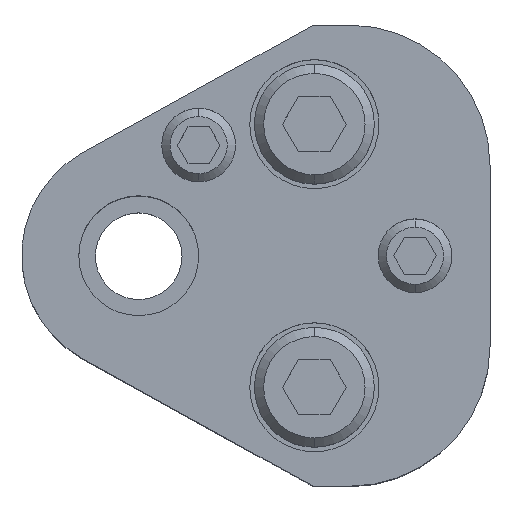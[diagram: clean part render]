
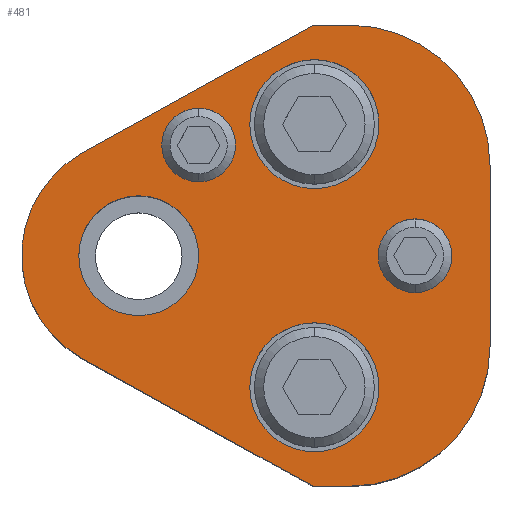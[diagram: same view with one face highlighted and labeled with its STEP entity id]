
A CAD part, top view. The second image highlights one B-rep face of the part: STEP entity #481.
In plain terms, the highlighted planar face has unit normal (0, 0, 1).
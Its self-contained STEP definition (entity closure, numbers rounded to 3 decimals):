
#213=FACE_BOUND('',#843,.T.);
#214=FACE_BOUND('',#844,.T.);
#215=FACE_BOUND('',#845,.T.);
#216=FACE_BOUND('',#846,.T.);
#217=FACE_BOUND('',#847,.T.);
#218=FACE_BOUND('',#848,.T.);
#303=CIRCLE('',#2712,15.2);
#305=CIRCLE('',#2716,15.2);
#308=CIRCLE('',#2722,12.7);
#309=CIRCLE('',#2724,4.);
#311=CIRCLE('',#2727,4.);
#313=CIRCLE('',#2730,4.);
#315=CIRCLE('',#2733,4.);
#325=CIRCLE('',#2748,7.);
#326=CIRCLE('',#2749,7.);
#327=CIRCLE('',#2750,7.);
#328=CIRCLE('',#2751,7.);
#329=CIRCLE('',#2752,6.5);
#330=CIRCLE('',#2753,6.5);
#481=ADVANCED_FACE('',(#213,#214,#215,#216,#217,#218),#595,.T.);
#595=PLANE('',#2754);
#843=EDGE_LOOP('',(#1257,#1258,#1259,#1260,#1261,#1262,#1263,#1264));
#844=EDGE_LOOP('',(#1265,#1266));
#845=EDGE_LOOP('',(#1267,#1268));
#846=EDGE_LOOP('',(#1269,#1270));
#847=EDGE_LOOP('',(#1271,#1272));
#848=EDGE_LOOP('',(#1273,#1274));
#1257=ORIENTED_EDGE('',*,*,#1996,.T.);
#1258=ORIENTED_EDGE('',*,*,#2000,.T.);
#1259=ORIENTED_EDGE('',*,*,#2003,.T.);
#1260=ORIENTED_EDGE('',*,*,#2006,.T.);
#1261=ORIENTED_EDGE('',*,*,#2009,.T.);
#1262=ORIENTED_EDGE('',*,*,#2012,.T.);
#1263=ORIENTED_EDGE('',*,*,#2015,.T.);
#1264=ORIENTED_EDGE('',*,*,#2018,.T.);
#1265=ORIENTED_EDGE('',*,*,#2043,.F.);
#1266=ORIENTED_EDGE('',*,*,#2044,.F.);
#1267=ORIENTED_EDGE('',*,*,#2045,.F.);
#1268=ORIENTED_EDGE('',*,*,#2046,.F.);
#1269=ORIENTED_EDGE('',*,*,#2029,.F.);
#1270=ORIENTED_EDGE('',*,*,#2025,.F.);
#1271=ORIENTED_EDGE('',*,*,#2023,.F.);
#1272=ORIENTED_EDGE('',*,*,#2019,.F.);
#1273=ORIENTED_EDGE('',*,*,#2047,.T.);
#1274=ORIENTED_EDGE('',*,*,#2048,.T.);
#1728=VERTEX_POINT('',#4024);
#1729=VERTEX_POINT('',#4026);
#1732=VERTEX_POINT('',#4033);
#1734=VERTEX_POINT('',#4039);
#1736=VERTEX_POINT('',#4045);
#1738=VERTEX_POINT('',#4051);
#1740=VERTEX_POINT('',#4057);
#1742=VERTEX_POINT('',#4063);
#1743=VERTEX_POINT('',#4071);
#1744=VERTEX_POINT('',#4072);
#1747=VERTEX_POINT('',#4083);
#1748=VERTEX_POINT('',#4084);
#1759=VERTEX_POINT('',#4119);
#1760=VERTEX_POINT('',#4120);
#1761=VERTEX_POINT('',#4123);
#1762=VERTEX_POINT('',#4124);
#1763=VERTEX_POINT('',#4127);
#1764=VERTEX_POINT('',#4128);
#1996=EDGE_CURVE('',#1729,#1728,#2294,.T.);
#2000=EDGE_CURVE('',#1728,#1732,#2298,.T.);
#2003=EDGE_CURVE('',#1732,#1734,#303,.T.);
#2006=EDGE_CURVE('',#1734,#1736,#2302,.T.);
#2009=EDGE_CURVE('',#1736,#1738,#305,.T.);
#2012=EDGE_CURVE('',#1738,#1740,#2306,.T.);
#2015=EDGE_CURVE('',#1740,#1742,#2309,.T.);
#2018=EDGE_CURVE('',#1742,#1729,#308,.T.);
#2019=EDGE_CURVE('',#1743,#1744,#309,.T.);
#2023=EDGE_CURVE('',#1744,#1743,#311,.T.);
#2025=EDGE_CURVE('',#1747,#1748,#313,.T.);
#2029=EDGE_CURVE('',#1748,#1747,#315,.T.);
#2043=EDGE_CURVE('',#1759,#1760,#325,.T.);
#2044=EDGE_CURVE('',#1760,#1759,#326,.T.);
#2045=EDGE_CURVE('',#1761,#1762,#327,.T.);
#2046=EDGE_CURVE('',#1762,#1761,#328,.T.);
#2047=EDGE_CURVE('',#1763,#1764,#329,.T.);
#2048=EDGE_CURVE('',#1764,#1763,#330,.T.);
#2294=LINE('',#4025,#2486);
#2298=LINE('',#4034,#2490);
#2302=LINE('',#4046,#2494);
#2306=LINE('',#4058,#2498);
#2309=LINE('',#4064,#2501);
#2486=VECTOR('',#3186,1.);
#2490=VECTOR('',#3192,1.);
#2494=VECTOR('',#3204,1.);
#2498=VECTOR('',#3216,1.);
#2501=VECTOR('',#3221,1.);
#2712=AXIS2_PLACEMENT_3D('',#4040,#3197,#3198);
#2716=AXIS2_PLACEMENT_3D('',#4052,#3209,#3210);
#2722=AXIS2_PLACEMENT_3D('',#4068,#3227,#3228);
#2724=AXIS2_PLACEMENT_3D('',#4070,#3231,#3232);
#2727=AXIS2_PLACEMENT_3D('',#4079,#3239,#3240);
#2730=AXIS2_PLACEMENT_3D('',#4082,#3245,#3246);
#2733=AXIS2_PLACEMENT_3D('',#4091,#3253,#3254);
#2748=AXIS2_PLACEMENT_3D('',#4118,#3287,#3288);
#2749=AXIS2_PLACEMENT_3D('',#4121,#3289,#3290);
#2750=AXIS2_PLACEMENT_3D('',#4122,#3291,#3292);
#2751=AXIS2_PLACEMENT_3D('',#4125,#3293,#3294);
#2752=AXIS2_PLACEMENT_3D('',#4126,#3295,#3296);
#2753=AXIS2_PLACEMENT_3D('',#4129,#3297,#3298);
#2754=AXIS2_PLACEMENT_3D('',#4130,#3299,#3300);
#3186=DIRECTION('',(0.875,-0.485,0.));
#3192=DIRECTION('',(1.,0.,0.));
#3197=DIRECTION('',(0.,0.,1.));
#3198=DIRECTION('',(-0.707,0.707,0.));
#3204=DIRECTION('',(0.,1.,0.));
#3209=DIRECTION('',(0.,0.,1.));
#3210=DIRECTION('',(-0.707,-0.707,0.));
#3216=DIRECTION('',(-1.,0.,0.));
#3221=DIRECTION('',(-0.875,-0.485,0.));
#3227=DIRECTION('',(0.,0.,1.));
#3228=DIRECTION('',(1.,0.,0.));
#3231=DIRECTION('',(0.,0.,1.));
#3232=DIRECTION('',(-1.,0.,0.));
#3239=DIRECTION('',(0.,0.,1.));
#3240=DIRECTION('',(1.,0.,0.));
#3245=DIRECTION('',(0.,0.,1.));
#3246=DIRECTION('',(-1.,0.,0.));
#3253=DIRECTION('',(0.,0.,1.));
#3254=DIRECTION('',(1.,0.,0.));
#3287=DIRECTION('',(0.,0.,1.));
#3288=DIRECTION('',(1.,0.,0.));
#3289=DIRECTION('',(0.,0.,1.));
#3290=DIRECTION('',(-1.,0.,0.));
#3291=DIRECTION('',(0.,0.,1.));
#3292=DIRECTION('',(1.,0.,0.));
#3293=DIRECTION('',(0.,0.,1.));
#3294=DIRECTION('',(-1.,0.,0.));
#3295=DIRECTION('',(0.,0.,-1.));
#3296=DIRECTION('',(-1.,0.,0.));
#3297=DIRECTION('',(0.,0.,-1.));
#3298=DIRECTION('',(1.,0.,0.));
#3299=DIRECTION('',(0.,0.,1.));
#3300=DIRECTION('',(-0.875,0.485,0.));
#4024=CARTESIAN_POINT('',(18.905,-25.,37.));
#4025=CARTESIAN_POINT('',(18.905,-25.,37.));
#4026=CARTESIAN_POINT('',(-6.157,-11.108,37.));
#4033=CARTESIAN_POINT('',(22.9,-25.,37.));
#4034=CARTESIAN_POINT('',(18.905,-25.,37.));
#4039=CARTESIAN_POINT('',(38.1,-9.8,37.));
#4040=CARTESIAN_POINT('',(22.9,-9.8,37.));
#4045=CARTESIAN_POINT('',(38.1,9.8,37.));
#4046=CARTESIAN_POINT('',(38.1,9.8,37.));
#4051=CARTESIAN_POINT('',(22.9,25.,37.));
#4052=CARTESIAN_POINT('',(22.9,9.8,37.));
#4057=CARTESIAN_POINT('',(18.905,25.,37.));
#4058=CARTESIAN_POINT('',(18.905,25.,37.));
#4063=CARTESIAN_POINT('',(-6.157,11.108,37.));
#4064=CARTESIAN_POINT('',(18.905,25.,37.));
#4068=CARTESIAN_POINT('',(0.,0.,37.));
#4070=CARTESIAN_POINT('',(6.5,12.,37.));
#4071=CARTESIAN_POINT('',(6.5,8.,37.));
#4072=CARTESIAN_POINT('',(6.5,16.,37.));
#4079=CARTESIAN_POINT('',(6.5,12.,37.));
#4082=CARTESIAN_POINT('',(29.97,0.,37.));
#4083=CARTESIAN_POINT('',(29.97,-4.,37.));
#4084=CARTESIAN_POINT('',(29.97,4.,37.));
#4091=CARTESIAN_POINT('',(29.97,0.,37.));
#4118=CARTESIAN_POINT('',(19.05,14.27,37.));
#4119=CARTESIAN_POINT('',(19.05,21.27,37.));
#4120=CARTESIAN_POINT('',(19.05,7.27,37.));
#4121=CARTESIAN_POINT('',(19.05,14.27,37.));
#4122=CARTESIAN_POINT('',(19.05,-14.27,37.));
#4123=CARTESIAN_POINT('',(19.05,-7.27,37.));
#4124=CARTESIAN_POINT('',(19.05,-21.27,37.));
#4125=CARTESIAN_POINT('',(19.05,-14.27,37.));
#4126=CARTESIAN_POINT('',(0.,0.,37.));
#4127=CARTESIAN_POINT('',(0.,6.5,37.));
#4128=CARTESIAN_POINT('',(0.,-6.5,37.));
#4129=CARTESIAN_POINT('',(0.,0.,37.));
#4130=CARTESIAN_POINT('',(-6.157,-11.108,37.));
